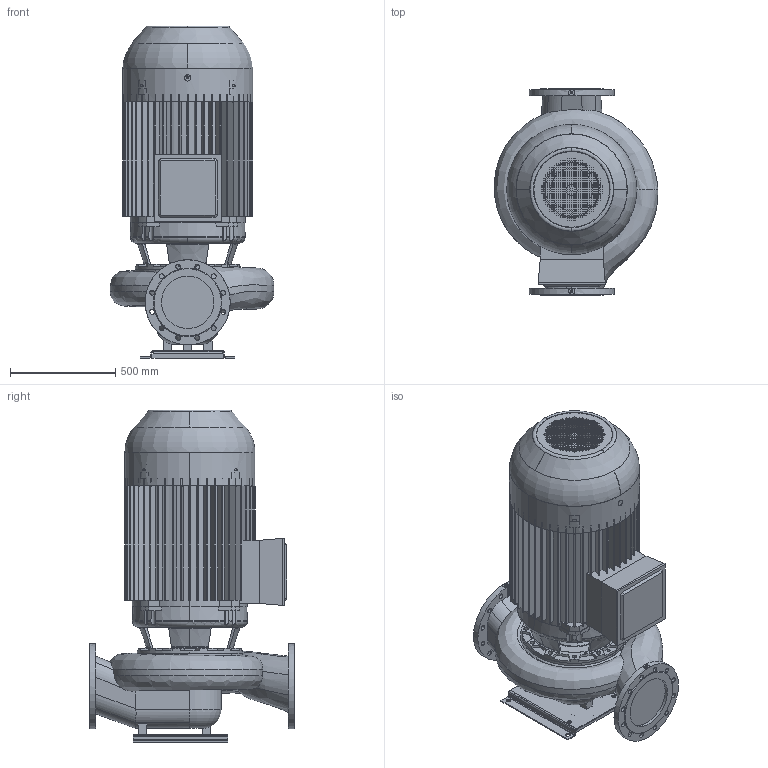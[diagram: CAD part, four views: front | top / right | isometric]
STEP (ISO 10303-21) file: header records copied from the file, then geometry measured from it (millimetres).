
FILE_DESCRIPTION(('STEP AP214'),'1');
FILE_NAME('export.stp','2018-05-28T11:24:20',(' '),(' '),'Spatial InterOp 3D',' ',' ');
FILE_SCHEMA(('AUTOMOTIVE_DESIGN { 1 0 10303 214 1 1 1 1 }'));
Length unit declared in the file: millimetre
Products named in the file (11): W_AL125041100KPR3; V_TLL125SAL1250; V_PPAL1250; P100464; P100462; P101191; V_MKPR314-H2-F43; R200681; R200071; R200677; R200400
Assembly tree (11 placements, depth 3):
  W_AL125041100KPR3
    V_TLL125SAL1250
    V_PPAL1250
    P100464
      P100462
      P101191  x2
    V_MKPR314-H2-F43
      R200681
      R200071
      R200677
      R200400
Bounding box: 779.19 x 980 x 1579.68 mm (x, y, z)
Volume: 155643810 mm3; surface area: 11712768.8 mm2
Topology: 9 solids, 11 shells, 3686 faces, 10750 edges, 7126 vertices
Faces by surface type: plane 2853, cylinder 617, cone 88, torus 83, bspline 45
Entity records: 173103 total; most frequent: CARTESIAN_POINT 27339, ORIENTED_EDGE 21312, DIRECTION 19294, EDGE_CURVE 10656, LINE 8616, VECTOR 8616, VERTEX_POINT 7074, STYLED_ITEM 6830
